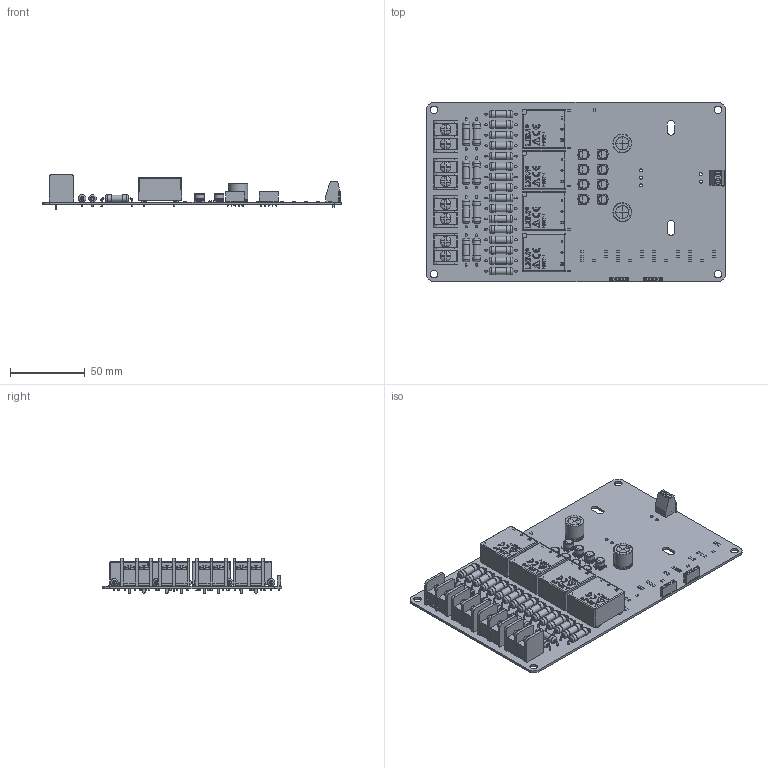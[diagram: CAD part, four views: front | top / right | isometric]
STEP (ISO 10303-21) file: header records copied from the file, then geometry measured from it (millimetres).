
FILE_DESCRIPTION(('KiCad electronic assembly'),'2;1');
FILE_NAME('LEM_Volt.step','2023-09-15T23:15:44',('An Author'),( 'A Company'),'Open CASCADE STEP processor 6.9', 'KiCad to STEP converter','Unknown');
FILE_SCHEMA(('AUTOMOTIVE_DESIGN { 1 0 10303 214 1 1 1 1 }'));
Length unit declared in the file: millimetre
Products named in the file (20): Open CASCADE STEP translator 6.9 1; CP_Elec_6.3x5.7; SOLID; LV25-P; COMPOUND; CP_Radial_D12.5mm_P5.00mm; LED_0805_2012Metric; Barrier_Terminal_Block_95mm_2-Pins; PinSocket_1x05_P2.54mm_Vertical; TerminalBlock_Phoenix_MKDS-1,5-2-5.08_1x02_P5.08mm_Horizontal; R_Axial_DIN0516_L15.5mm_D5.0mm_P20.32mm_Horizontal; R_0805_2012Metric
Assembly tree (85 placements, depth 3):
  Open CASCADE STEP translator 6.9 1
    CP_Elec_6.3x5.7  x8
      SOLID
    LV25-P  x4
      COMPOUND
    CP_Radial_D12.5mm_P5.00mm  x2
      SOLID
    LED_0805_2012Metric
      SOLID
    Barrier_Terminal_Block_95mm_2-Pins  x4
      SOLID
    PinSocket_1x05_P2.54mm_Vertical  x2
      SOLID
    TerminalBlock_Phoenix_MKDS-1,5-2-5.08_1x02_P5.08mm_Horizontal
      SOLID
    R_Axial_DIN0516_L15.5mm_D5.0mm_P20.32mm_Horizontal  x24
      SOLID
    R_0805_2012Metric  x29
      SOLID
    COMPOUND
Bounding box: 200 x 120 x 23.5 mm (x, y, z)
Volume: 112607.3 mm3; surface area: 92730.4 mm2
Topology: 100 solids, 102 shells, 4872 faces, 12059 edges, 7562 vertices
Faces by surface type: plane 3199, cylinder 1227, revolution 164, torus 132, bspline 86, cone 48, sphere 16
Full cylindrical faces by diameter (mm): 0.8 x96, 0.9 x4, 1 x10, 1.1 x8, 1.2 x64, 1.3 x2, 2 x5, 2.3 x8, 3.8 x2, 4 x2, 4.5 x24, 5 x48, 5.004 x4, 6.3 x16
Entity records: 97655 total; most frequent: CARTESIAN_POINT 29488, DIRECTION 12095, LINE 7796, VECTOR 7796, ORIENTED_EDGE 6248, PCURVE 6248, DEFINITIONAL_REPRESENTATION 6248, EDGE_CURVE 3124
